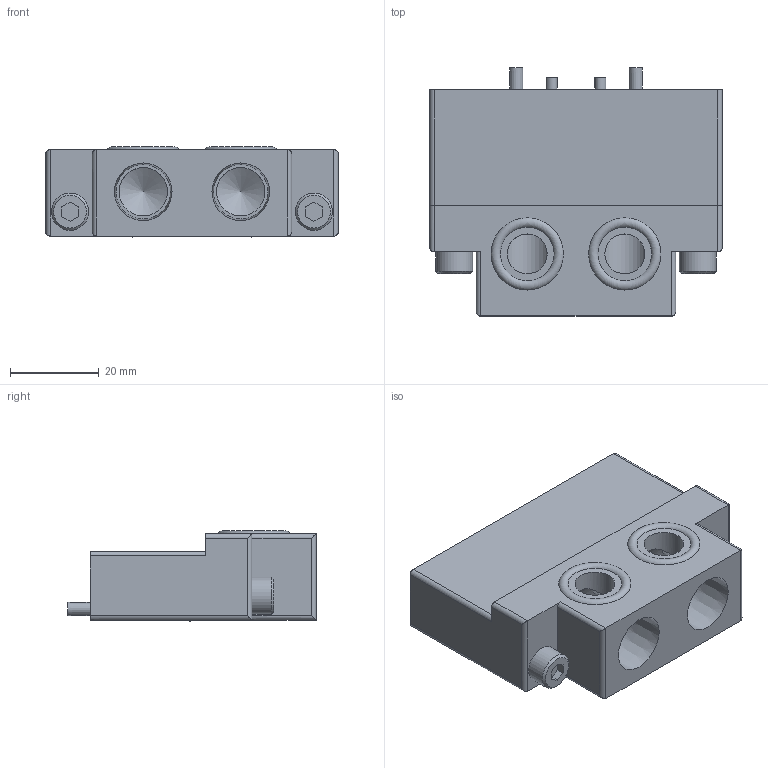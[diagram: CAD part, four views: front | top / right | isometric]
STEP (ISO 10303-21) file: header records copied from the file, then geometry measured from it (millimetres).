
FILE_DESCRIPTION(('STEP AP214'),'1');
FILE_NAME('KHG-12HS-EP82_ver1.stp','2026-05-18T00:55:40',(' '),(' '),'Spatial InterOp 3D',' ',' ');
FILE_SCHEMA(('AUTOMOTIVE_DESIGN { 1 0 10303 214 1 1 1 1 }'));
Length unit declared in the file: millimetre
Products named in the file (1): KHG-12HS-EP82_ver1
Bounding box: 66 x 56 x 20.3 mm (x, y, z)
Volume: 47577.1 mm3; surface area: 14661.5 mm2
Topology: 1 solids, 7 shells, 132 faces, 293 edges, 191 vertices
Faces by surface type: plane 80, cylinder 38, cone 12, torus 2
Full cylindrical faces by diameter (mm): 2.5 x2, 3 x2, 3.5 x2, 4 x2, 4.2 x2, 5.41 x2, 5.5 x2, 8.385 x2, 9 x2, 10.9 x2
Entity records: 4544 total; most frequent: CARTESIAN_POINT 713, DIRECTION 590, ORIENTED_EDGE 478, EDGE_CURVE 239, AXIS2_PLACEMENT_3D 220, EDGE_LOOP 192, VERTEX_POINT 175, FACE_OUTER_BOUND 154
